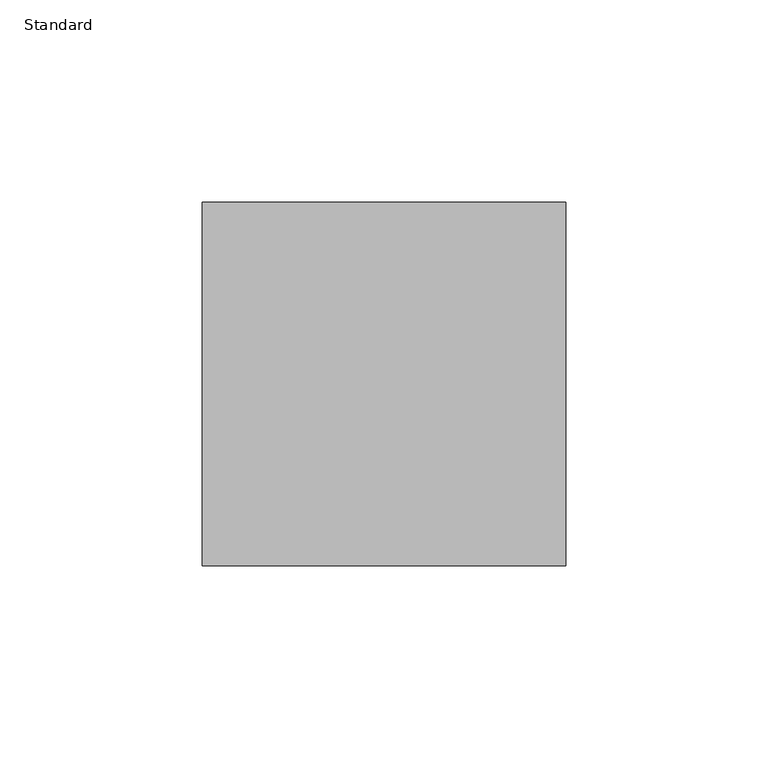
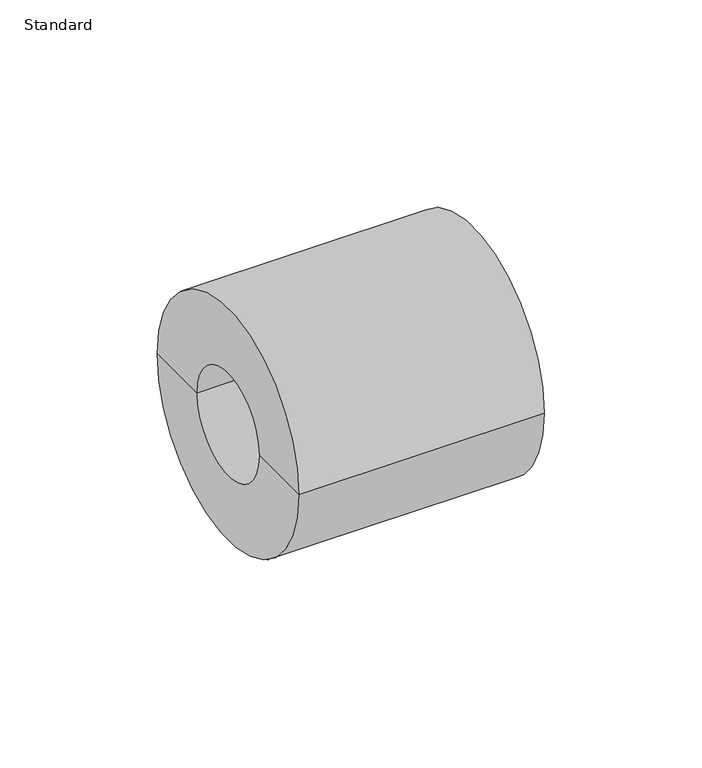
"""IFC4 building model written with IfcOpenShell, lengths in millimetres: pipe fitting geometry, Durapipe_PipeFitting_PVC_ReducingBush : Standard."""

from ifc_helpers import new_model, si_unit, frame, origin, place, context, project, spatial, polyline, circle_curve, source, transform, mapped, element, save
from ifc_brep_helpers import plane_surface, cylinder_surface, revolved_surface, advanced_brep


def standard_374f9c32(model_context):
    return source(origin(), model_context, "Body", "AdvancedBrep", [
        advanced_brep(
        [(-20.0, -20.0, 0.0), (-20.0, 20.0, 0.0), (-20.0, 45.0, 0.0), (-20.0, -45.0, 0.0), (0.0, -20.0, 0.0), (0.0, 20.0, 0.0), (0.0, -25.0, 0.0), (0.0, 25.0, 0.0), (70.0, -25.0, 0.0), (70.0, 25.0, 0.0), (70.0, -45.0, 0.0), (70.0, 45.0, 0.0)],
        [
            (0, 1, circle_curve(frame((-20.0, 0.0, 0.0), z_axis=(1.0, 0.0, 0.0), x_axis=(0.0, 1.0, 0.0)), 20.0)),
            (1, 2),
            (2, 3, circle_curve(frame((-20.0, 0.0, 0.0), z_axis=(-1.0, 0.0, 0.0), x_axis=(0.0, 1.0, 0.0)), 45.0)),
            (3, 0),
            (1, 0, circle_curve(frame((-20.0, 0.0, 0.0), z_axis=(1.0, 0.0, 0.0), x_axis=(0.0, 1.0, 0.0)), 20.0)),
            (3, 2, circle_curve(frame((-20.0, 0.0, 0.0), z_axis=(-1.0, 0.0, 0.0), x_axis=(0.0, 1.0, 0.0)), 45.0)),
            (4, 5, circle_curve(frame((0.0, 0.0, 0.0), z_axis=(1.0, 0.0, 0.0), x_axis=(0.0, 1.0, 0.0)), 20.0)),
            (5, 1),
            (0, 4),
            (5, 4, circle_curve(frame((0.0, 0.0, 0.0), z_axis=(1.0, 0.0, 0.0), x_axis=(0.0, 1.0, 0.0)), 20.0)),
            (6, 7, circle_curve(frame((0.0, 0.0, 0.0), z_axis=(1.0, 0.0, 0.0), x_axis=(0.0, 1.0, 0.0)), 25.0)),
            (7, 5),
            (4, 6),
            (7, 6, circle_curve(frame((0.0, 0.0, 0.0), z_axis=(1.0, 0.0, 0.0), x_axis=(0.0, 1.0, 0.0)), 25.0)),
            (8, 9, circle_curve(frame((70.0, 0.0, 0.0), z_axis=(1.0, 0.0, 0.0), x_axis=(0.0, 1.0, 0.0)), 25.0)),
            (9, 7),
            (6, 8),
            (9, 8, circle_curve(frame((70.0, 0.0, 0.0), z_axis=(1.0, 0.0, 0.0), x_axis=(0.0, 1.0, 0.0)), 25.0)),
            (10, 11, circle_curve(frame((70.0, 0.0, 0.0), z_axis=(1.0, 0.0, 0.0), x_axis=(0.0, 1.0, 0.0)), 45.0)),
            (11, 9),
            (8, 10),
            (11, 10, circle_curve(frame((70.0, 0.0, 0.0), z_axis=(1.0, 0.0, 0.0), x_axis=(0.0, 1.0, 0.0)), 45.0)),
            (2, 11),
            (10, 3),
        ],
        [
            plane_surface(frame((-20.0, 0.0, 0.0), z_axis=(-1.0, 0.0, 0.0), x_axis=(0.0, 1.0, 0.0))),
            revolved_surface(polyline([(-20.0, 20.0, 0.0), (0.0, 20.0, 0.0)]), (2056.0, 0.0, 0.0), (-1.0, 0.0, 0.0)),
            plane_surface(frame((0.0, 0.0, 0.0), z_axis=(1.0, 0.0, 0.0), x_axis=(0.0, 1.0, 0.0))),
            revolved_surface(polyline([(0.0, 25.0, 0.0), (70.0, 25.0, 0.0)]), (2056.0, 0.0, 0.0), (-1.0, 0.0, 0.0)),
            plane_surface(frame((70.0, 0.0, 0.0), z_axis=(1.0, 0.0, 0.0), x_axis=(0.0, 1.0, 0.0))),
            cylinder_surface(frame((2056.0, 0.0, 0.0), z_axis=(-1.0, 0.0, 0.0), x_axis=(0.0, 1.0, 0.0)), 45.0),
        ],
        [
            (0, [[1, 2, 3, 4]]),
            (0, [[5, -4, 6, -2]]),
            (1, [[7, 8, -1, 9]]),
            (1, [[10, -9, -5, -8]]),
            (2, [[11, 12, -7, 13]]),
            (2, [[14, -13, -10, -12]]),
            (3, [[15, 16, -11, 17]]),
            (3, [[18, -17, -14, -16]]),
            (4, [[19, 20, -15, 21]]),
            (4, [[22, -21, -18, -20]]),
            (5, [[-3, 23, -19, 24]]),
            (5, [[-6, -24, -22, -23]]),
        ],
    ),
    ])


if __name__ == "__main__":
    model = new_model("IFC4")
    model_context = context("Model", 3, world=origin())
    ifc_project = project(units=[si_unit("LENGTHUNIT", "METRE", prefix="MILLI")], contexts=[model_context])
    site = spatial("IfcSite", under=ifc_project)
    building = spatial("IfcBuilding", under=site)
    placement = place(None, origin())
    standard_shape = standard_374f9c32(model_context)
    element("IfcPipeFitting", 1, ObjectType="Durapipe_PipeFitting_PVC_ReducingBush : Standard", at=placement, inside=building, context=model_context, shape_type="MappedRepresentation", body=[
        mapped(standard_shape, transform((0.0, 0.0, 0.0), x_axis=(1.0, 0.0, 0.0), y_axis=(0.0, 1.0, 0.0), z_axis=(0.0, 0.0, 1.0))),
    ])
    save(model, "model.ifc")
